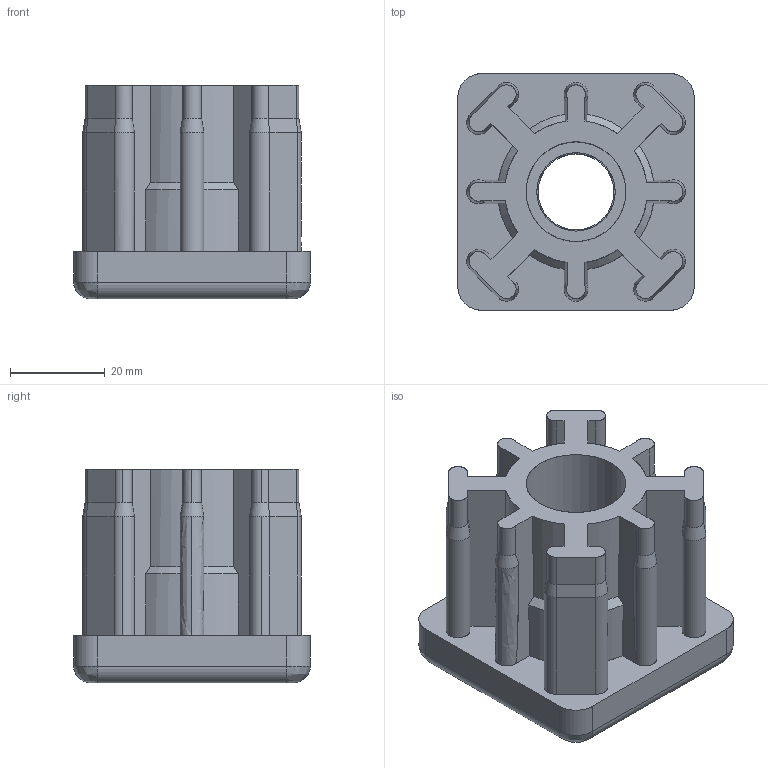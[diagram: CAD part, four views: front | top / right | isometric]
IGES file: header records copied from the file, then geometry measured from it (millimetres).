
Start section: SolidWorks IGES file using analytic representation for surfaces
Global section: file name: Y:\Tecnodin, S.L\Planos Clientes - Documentos\General\PLANOS CLIENTES\3D\-REVISAR-\CONTERAS TECOM\42006850316.IGS; native system: SolidWorks 2018; preprocessor: SolidWorks 2018; author: GerPro; date: 200226.121329; units: millimetre
Bounding box: 49.8 x 49.8 x 45 mm (x, y, z)
Surface area: 20770.7 mm2 (no closed solid volume)
Topology: 0 solids, 0 shells, 183 faces, 1726 edges, 1726 vertices
Faces by surface type: revolution 108, bspline 75
